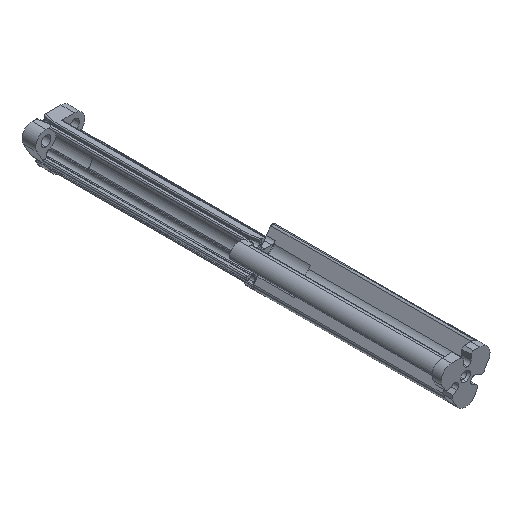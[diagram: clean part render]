
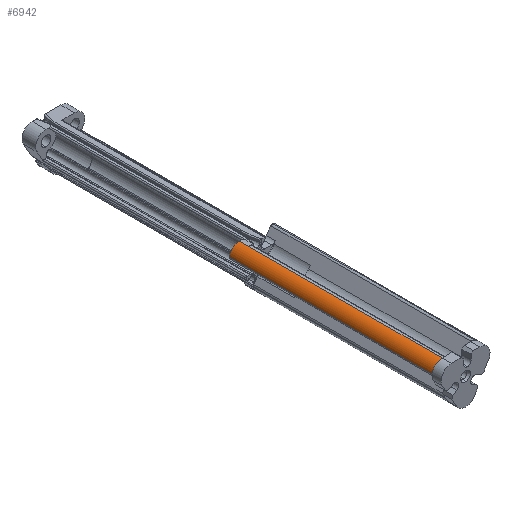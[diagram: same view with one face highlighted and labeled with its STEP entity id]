
A CAD part, isometric view. The second image highlights one B-rep face of the part: STEP entity #6942.
In plain terms, the highlighted cylindrical face has radius 2.2 mm (diameter 4.4 mm), a partial arc.
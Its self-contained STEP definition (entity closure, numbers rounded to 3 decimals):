
#172 = ORIENTED_EDGE ( 'NONE', *, *, #6747, .T. ) ;
#178 = LINE ( 'NONE', #9712, #11126 ) ;
#413 = CARTESIAN_POINT ( 'NONE',  ( -3.1, -45., 1.79 ) ) ;
#674 = CIRCLE ( 'NONE', #957, 2.2 ) ;
#905 = CARTESIAN_POINT ( 'NONE',  ( -3.363, -89., 3.99 ) ) ;
#957 = AXIS2_PLACEMENT_3D ( 'NONE', #413, #7828, #9306 ) ;
#1718 = EDGE_CURVE ( 'NONE', #5061, #6844, #3199, .T. ) ;
#1901 = CARTESIAN_POINT ( 'NONE',  ( -4.353, -89., 3.617 ) ) ;
#2676 = ORIENTED_EDGE ( 'NONE', *, *, #7310, .F. ) ;
#2724 = ORIENTED_EDGE ( 'NONE', *, *, #1718, .T. ) ;
#3101 = CARTESIAN_POINT ( 'NONE',  ( -3.628, -89., 3.942 ) ) ;
#3199 = B_SPLINE_CURVE_WITH_KNOTS ( 'NONE', 3,
 ( #5102, #12559, #9335, #13521, #11556, #1901, #4066, #3101, #905, #10343 ),
 .UNSPECIFIED., .F., .F.,
 ( 4, 2, 2, 2, 4 ),
 ( 0., 0.212, 0.425, 0.637, 0.85 ),
 .UNSPECIFIED. ) ;
#3279 = CARTESIAN_POINT ( 'NONE',  ( -3.1, -47., 1.79 ) ) ;
#3553 = EDGE_CURVE ( 'NONE', #3830, #7248, #4345, .T. ) ;
#3634 = CARTESIAN_POINT ( 'NONE',  ( -3.101, -45., 3.99 ) ) ;
#3830 = VERTEX_POINT ( 'NONE', #10059 ) ;
#4066 = CARTESIAN_POINT ( 'NONE',  ( -4.122, -89., 3.756 ) ) ;
#4198 = DIRECTION ( 'NONE',  ( 0., 0., 1. ) ) ;
#4345 = LINE ( 'NONE', #6826, #6816 ) ;
#4457 = LINE ( 'NONE', #6370, #11904 ) ;
#5061 = VERTEX_POINT ( 'NONE', #7875 ) ;
#5102 = CARTESIAN_POINT ( 'NONE',  ( -5.282, -89., 2.072 ) ) ;
#6370 = CARTESIAN_POINT ( 'NONE',  ( -5.282, -89., 2.073 ) ) ;
#6747 = EDGE_CURVE ( 'NONE', #6844, #9379, #178, .T. ) ;
#6816 = VECTOR ( 'NONE', #8117, 1000. ) ;
#6826 = CARTESIAN_POINT ( 'NONE',  ( -3.101, -47., 3.99 ) ) ;
#6844 = VERTEX_POINT ( 'NONE', #7799 ) ;
#6942 = ADVANCED_FACE ( 'NONE', ( #9126 ), #9464, .T. ) ;
#7248 = VERTEX_POINT ( 'NONE', #3634 ) ;
#7310 = EDGE_CURVE ( 'NONE', #10132, #7248, #674, .T. ) ;
#7542 = DIRECTION ( 'NONE',  ( 0., 1., 0. ) ) ;
#7799 = CARTESIAN_POINT ( 'NONE',  ( -3.099, -89., 3.99 ) ) ;
#7828 = DIRECTION ( 'NONE',  ( 0., 1., 0. ) ) ;
#7875 = CARTESIAN_POINT ( 'NONE',  ( -5.282, -89., 2.072 ) ) ;
#7922 = CIRCLE ( 'NONE', #9688, 2.2 ) ;
#8117 = DIRECTION ( 'NONE',  ( 0., 1., 0. ) ) ;
#8258 = CARTESIAN_POINT ( 'NONE',  ( -5.282, -45., 2.073 ) ) ;
#9126 = FACE_OUTER_BOUND ( 'NONE', #12393, .T. ) ;
#9306 = DIRECTION ( 'NONE',  ( 0., 0., -1. ) ) ;
#9335 = CARTESIAN_POINT ( 'NONE',  ( -5.166, -89., 2.591 ) ) ;
#9379 = VERTEX_POINT ( 'NONE', #11258 ) ;
#9460 = CARTESIAN_POINT ( 'NONE',  ( -3.1, -89., 1.79 ) ) ;
#9464 = CYLINDRICAL_SURFACE ( 'NONE', #12123, 2.2 ) ;
#9553 = DIRECTION ( 'NONE',  ( 0., 1., 0. ) ) ;
#9688 = AXIS2_PLACEMENT_3D ( 'NONE', #3279, #11733, #10671 ) ;
#9712 = CARTESIAN_POINT ( 'NONE',  ( -3.1, -89., 3.99 ) ) ;
#9810 = DIRECTION ( 'NONE',  ( 0., 1., 0. ) ) ;
#9907 = ORIENTED_EDGE ( 'NONE', *, *, #12442, .T. ) ;
#10059 = CARTESIAN_POINT ( 'NONE',  ( -3.101, -47., 3.99 ) ) ;
#10132 = VERTEX_POINT ( 'NONE', #8258 ) ;
#10343 = CARTESIAN_POINT ( 'NONE',  ( -3.099, -89., 3.99 ) ) ;
#10671 = DIRECTION ( 'NONE',  ( 0., 0., 1. ) ) ;
#11126 = VECTOR ( 'NONE', #9810, 1000. ) ;
#11258 = CARTESIAN_POINT ( 'NONE',  ( -3.1, -47., 3.99 ) ) ;
#11523 = ORIENTED_EDGE ( 'NONE', *, *, #3553, .T. ) ;
#11556 = CARTESIAN_POINT ( 'NONE',  ( -4.75, -89., 3.269 ) ) ;
#11733 = DIRECTION ( 'NONE',  ( 0., -1., 0. ) ) ;
#11817 = EDGE_CURVE ( 'NONE', #5061, #10132, #4457, .T. ) ;
#11904 = VECTOR ( 'NONE', #7542, 1000. ) ;
#12123 = AXIS2_PLACEMENT_3D ( 'NONE', #9460, #9553, #4198 ) ;
#12246 = ORIENTED_EDGE ( 'NONE', *, *, #11817, .F. ) ;
#12393 = EDGE_LOOP ( 'NONE', ( #2724, #172, #9907, #11523, #2676, #12246 ) ) ;
#12442 = EDGE_CURVE ( 'NONE', #9379, #3830, #7922, .T. ) ;
#12559 = CARTESIAN_POINT ( 'NONE',  ( -5.248, -89., 2.335 ) ) ;
#13521 = CARTESIAN_POINT ( 'NONE',  ( -4.917, -89., 3.058 ) ) ;
